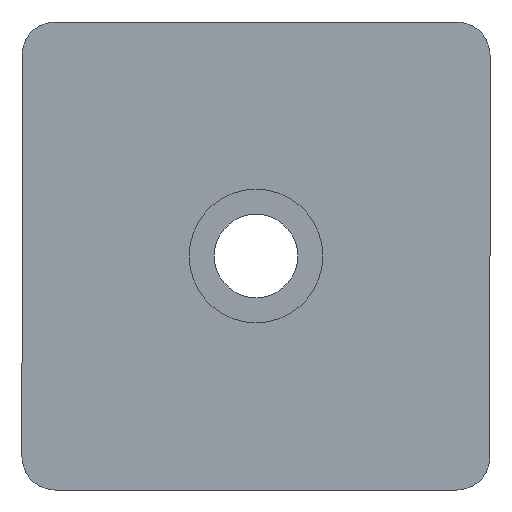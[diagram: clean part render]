
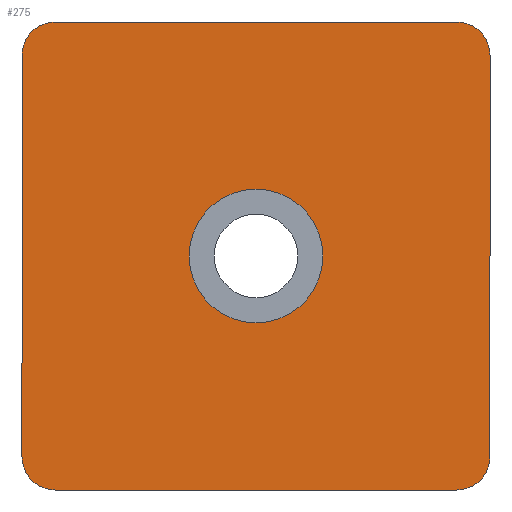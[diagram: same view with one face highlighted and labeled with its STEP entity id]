
A CAD part, front view. The second image highlights one B-rep face of the part: STEP entity #275.
In plain terms, the highlighted planar face has unit normal (0, -1, 0).
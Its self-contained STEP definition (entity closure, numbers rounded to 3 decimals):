
#9 = VECTOR ( 'NONE', #772, 1000. ) ;
#15 = CARTESIAN_POINT ( 'NONE',  ( 0., 0., 0. ) ) ;
#20 = AXIS2_PLACEMENT_3D ( 'NONE', #902, #415, #665 ) ;
#53 = FACE_OUTER_BOUND ( 'NONE', #396, .T. ) ;
#65 = VERTEX_POINT ( 'NONE', #519 ) ;
#77 = ORIENTED_EDGE ( 'NONE', *, *, #957, .F. ) ;
#88 = EDGE_CURVE ( 'NONE', #629, #599, #793, .T. ) ;
#89 = DIRECTION ( 'NONE',  ( 0., 0., 1. ) ) ;
#102 = CARTESIAN_POINT ( 'NONE',  ( -12., 0., -14. ) ) ;
#107 = DIRECTION ( 'NONE',  ( 0., -1., 0. ) ) ;
#123 = DIRECTION ( 'NONE',  ( 0., -1., 0. ) ) ;
#157 = LINE ( 'NONE', #378, #178 ) ;
#159 = CARTESIAN_POINT ( 'NONE',  ( 0., 0., -4. ) ) ;
#164 = CARTESIAN_POINT ( 'NONE',  ( 14., 0., 12. ) ) ;
#178 = VECTOR ( 'NONE', #715, 1000. ) ;
#183 = ORIENTED_EDGE ( 'NONE', *, *, #647, .T. ) ;
#196 = DIRECTION ( 'NONE',  ( 0., 0., -1. ) ) ;
#226 = CARTESIAN_POINT ( 'NONE',  ( -12., 0., 12. ) ) ;
#243 = ORIENTED_EDGE ( 'NONE', *, *, #521, .F. ) ;
#253 = VERTEX_POINT ( 'NONE', #164 ) ;
#255 = CARTESIAN_POINT ( 'NONE',  ( -12., 0., 14. ) ) ;
#258 = VERTEX_POINT ( 'NONE', #102 ) ;
#275 = ADVANCED_FACE ( 'NONE', ( #534, #53 ), #323, .F. ) ;
#298 = AXIS2_PLACEMENT_3D ( 'NONE', #226, #456, #89 ) ;
#305 = DIRECTION ( 'NONE',  ( 1., 0., 0. ) ) ;
#323 = PLANE ( 'NONE',  #600 ) ;
#324 = ORIENTED_EDGE ( 'NONE', *, *, #1004, .F. ) ;
#331 = CIRCLE ( 'NONE', #298, 2. ) ;
#340 = CARTESIAN_POINT ( 'NONE',  ( 0., 0., 0. ) ) ;
#353 = ORIENTED_EDGE ( 'NONE', *, *, #953, .T. ) ;
#361 = DIRECTION ( 'NONE',  ( 0., -1., 0. ) ) ;
#372 = VERTEX_POINT ( 'NONE', #813 ) ;
#378 = CARTESIAN_POINT ( 'NONE',  ( 14., 0., -14. ) ) ;
#387 = VERTEX_POINT ( 'NONE', #255 ) ;
#396 = EDGE_LOOP ( 'NONE', ( #243, #400, #77, #353, #324, #703, #870, #183 ) ) ;
#400 = ORIENTED_EDGE ( 'NONE', *, *, #550, .T. ) ;
#404 = AXIS2_PLACEMENT_3D ( 'NONE', #340, #107, #909 ) ;
#405 = VECTOR ( 'NONE', #573, 1000. ) ;
#409 = EDGE_CURVE ( 'NONE', #253, #372, #421, .T. ) ;
#415 = DIRECTION ( 'NONE',  ( 0., -1., 0. ) ) ;
#421 = CIRCLE ( 'NONE', #20, 2. ) ;
#426 = CARTESIAN_POINT ( 'NONE',  ( -14., 0., -14. ) ) ;
#434 = CIRCLE ( 'NONE', #959, 2. ) ;
#456 = DIRECTION ( 'NONE',  ( 0., -1., 0. ) ) ;
#462 = ORIENTED_EDGE ( 'NONE', *, *, #88, .F. ) ;
#472 = EDGE_CURVE ( 'NONE', #599, #629, #771, .T. ) ;
#482 = LINE ( 'NONE', #939, #9 ) ;
#519 = CARTESIAN_POINT ( 'NONE',  ( -14., 0., 12. ) ) ;
#521 = EDGE_CURVE ( 'NONE', #733, #65, #482, .T. ) ;
#534 = FACE_BOUND ( 'NONE', #627, .T. ) ;
#544 = LINE ( 'NONE', #874, #997 ) ;
#550 = EDGE_CURVE ( 'NONE', #733, #258, #863, .T. ) ;
#573 = DIRECTION ( 'NONE',  ( -1., 0., 0. ) ) ;
#599 = VERTEX_POINT ( 'NONE', #788 ) ;
#600 = AXIS2_PLACEMENT_3D ( 'NONE', #15, #881, #633 ) ;
#613 = VERTEX_POINT ( 'NONE', #880 ) ;
#627 = EDGE_LOOP ( 'NONE', ( #945, #462 ) ) ;
#629 = VERTEX_POINT ( 'NONE', #159 ) ;
#633 = DIRECTION ( 'NONE',  ( 0., 0., 1. ) ) ;
#647 = EDGE_CURVE ( 'NONE', #387, #65, #331, .T. ) ;
#665 = DIRECTION ( 'NONE',  ( 0., 0., 1. ) ) ;
#670 = DIRECTION ( 'NONE',  ( 0., -1., 0. ) ) ;
#673 = CARTESIAN_POINT ( 'NONE',  ( 12., 0., -12. ) ) ;
#703 = ORIENTED_EDGE ( 'NONE', *, *, #409, .T. ) ;
#715 = DIRECTION ( 'NONE',  ( 0., 0., -1. ) ) ;
#716 = EDGE_CURVE ( 'NONE', #387, #372, #544, .T. ) ;
#721 = AXIS2_PLACEMENT_3D ( 'NONE', #750, #670, #196 ) ;
#733 = VERTEX_POINT ( 'NONE', #784 ) ;
#750 = CARTESIAN_POINT ( 'NONE',  ( 0., 0., 0. ) ) ;
#771 = CIRCLE ( 'NONE', #404, 4. ) ;
#772 = DIRECTION ( 'NONE',  ( 0., 0., 1. ) ) ;
#778 = VERTEX_POINT ( 'NONE', #956 ) ;
#784 = CARTESIAN_POINT ( 'NONE',  ( -14., 0., -12. ) ) ;
#788 = CARTESIAN_POINT ( 'NONE',  ( 0., 0., 4. ) ) ;
#793 = CIRCLE ( 'NONE', #721, 4. ) ;
#813 = CARTESIAN_POINT ( 'NONE',  ( 12., 0., 14. ) ) ;
#840 = LINE ( 'NONE', #426, #405 ) ;
#854 = CARTESIAN_POINT ( 'NONE',  ( -12., 0., -12. ) ) ;
#863 = CIRCLE ( 'NONE', #896, 2. ) ;
#870 = ORIENTED_EDGE ( 'NONE', *, *, #716, .F. ) ;
#874 = CARTESIAN_POINT ( 'NONE',  ( -14., 0., 14. ) ) ;
#880 = CARTESIAN_POINT ( 'NONE',  ( 12., 0., -14. ) ) ;
#881 = DIRECTION ( 'NONE',  ( 0., 1., 0. ) ) ;
#896 = AXIS2_PLACEMENT_3D ( 'NONE', #854, #361, #1005 ) ;
#902 = CARTESIAN_POINT ( 'NONE',  ( 12., 0., 12. ) ) ;
#909 = DIRECTION ( 'NONE',  ( 0., 0., -1. ) ) ;
#939 = CARTESIAN_POINT ( 'NONE',  ( -14., 0., -14. ) ) ;
#945 = ORIENTED_EDGE ( 'NONE', *, *, #472, .F. ) ;
#953 = EDGE_CURVE ( 'NONE', #613, #778, #434, .T. ) ;
#956 = CARTESIAN_POINT ( 'NONE',  ( 14., 0., -12. ) ) ;
#957 = EDGE_CURVE ( 'NONE', #613, #258, #840, .T. ) ;
#959 = AXIS2_PLACEMENT_3D ( 'NONE', #673, #123, #991 ) ;
#991 = DIRECTION ( 'NONE',  ( 0., 0., 1. ) ) ;
#997 = VECTOR ( 'NONE', #305, 1000. ) ;
#1004 = EDGE_CURVE ( 'NONE', #253, #778, #157, .T. ) ;
#1005 = DIRECTION ( 'NONE',  ( 0., 0., 1. ) ) ;
